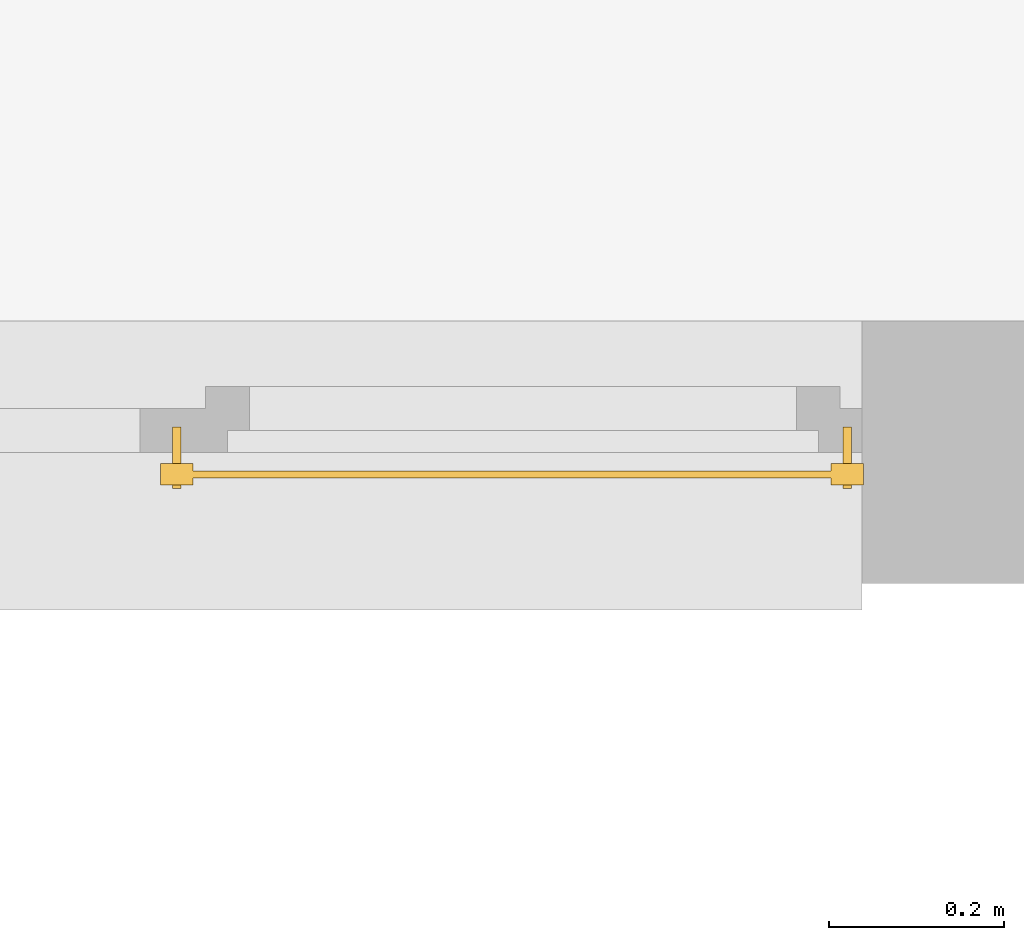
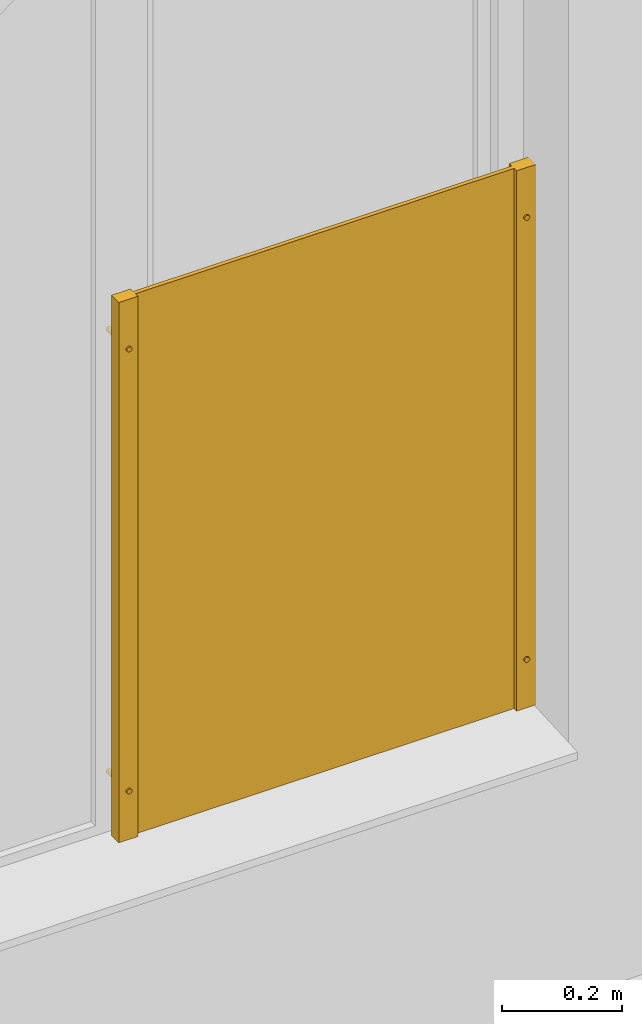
# One storey, part 4 of 8: 1 railing.
"""IFC2X3 building model written with IfcOpenShell, lengths in millimetres."""

from ifc_helpers import new_model, entity, si_unit, converted_unit, derived_unit, money_unit, direction, frame, origin_with_axes, place, context, subcontext, project, spatial, faceted_brep, material, material_list, type_object, element, save


model = new_model("IFC2X3")

# Units and contexts
model_context = context("Model", 3, precision=1e-05, world=origin_with_axes(), true_north=direction((0.0, 1.0)))
body_context = subcontext(model_context, "Body", "Model", "MODEL_VIEW")
ifc_project = project(units=[si_unit("LENGTHUNIT", "METRE", prefix="MILLI"), si_unit("AREAUNIT", "SQUARE_METRE"), si_unit("VOLUMEUNIT", "CUBIC_METRE"), converted_unit("PLANEANGLEUNIT", "DEGREE", entity("IfcPlaneAngleMeasure", 0.0174532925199), si_unit("PLANEANGLEUNIT", "RADIAN"), dimensions=[0, 0, 0, 0, 0, 0, 0]), si_unit("SOLIDANGLEUNIT", "STERADIAN"), money_unit("USD"), converted_unit("TIMEUNIT", "Year", entity("IfcTimeMeasure", 31556926.0), si_unit("TIMEUNIT", "SECOND"), dimensions=[0, 0, 1, 0, 0, 0, 0]), si_unit("MASSUNIT", "GRAM", prefix="KILO"), si_unit("THERMODYNAMICTEMPERATUREUNIT", "DEGREE_CELSIUS"), si_unit("LUMINOUSINTENSITYUNIT", "LUMEN"), si_unit("ENERGYUNIT", "JOULE", prefix="MEGA"), derived_unit("THERMALCONDUCTANCEUNIT", [(si_unit("POWERUNIT", "WATT"), 1), (si_unit("LENGTHUNIT", "METRE"), -1), (si_unit("THERMODYNAMICTEMPERATUREUNIT", "KELVIN"), -1)]), derived_unit("SPECIFICHEATCAPACITYUNIT", [(si_unit("ENERGYUNIT", "JOULE"), 1), (si_unit("MASSUNIT", "GRAM", prefix="KILO"), -1), (si_unit("THERMODYNAMICTEMPERATUREUNIT", "KELVIN"), -1)]), derived_unit("MASSDENSITYUNIT", [(si_unit("MASSUNIT", "GRAM", prefix="KILO"), 1), (si_unit("VOLUMEUNIT", "CUBIC_METRE"), -1)])], contexts=[model_context])

# Site, building, storey
site_placement = place(None, origin_with_axes())
site = spatial("IfcSite", under=ifc_project, at=site_placement, Name="Site", CompositionType="ELEMENT")
building_placement = place(site_placement, origin_with_axes())
building = spatial("IfcBuilding", under=site, at=building_placement, Name="Building", CompositionType="ELEMENT")
storey_placement = place(building_placement, origin_with_axes())
storey = spatial("IfcBuildingStorey", under=building, at=storey_placement, Name="Ground Floor", CompositionType="ELEMENT", Elevation=0.0)

# Railing
ifc_material_1 = material(Name="Steel - Structural")
ifc_material_2 = material(Name="Aluminium")
ifc_material_list = material_list([ifc_material_1, ifc_material_1, ifc_material_2, ifc_material_2, ifc_material_2, ifc_material_2, ifc_material_2])
railing_type = type_object("IfcRailingType", Name="Railing Type", PredefinedType="NOTDEFINED")
railing_placement = place(storey_placement, frame((-25961.9113682, 4280.41294117, 530.0), z_axis=(0.0, 0.0, 1.0), x_axis=(0.0, 1.0, 0.0)))
element("IfcRailing", 1, at=railing_placement, inside=storey, type_object=railing_type, material=ifc_material_list, Name="F-Line GOTLAND 1,1m", PredefinedType="NOTDEFINED", context=body_context, shape_type="Brep", body=[
    faceted_brep([(-12.5, 35.5, 0.0), (-37.5, 35.5, 0.0), (-37.5, 35.5, 1100.0), (-12.5, 35.5, 1100.0), (-12.5, -1.5, 0.0), (-37.5, -1.5, 0.0), (-37.5, -1.5, 1100.0), (-12.5, -1.5, 1100.0)], [[[0, 1, 2, 3]], [[0, 4, 5, 1]], [[1, 5, 6, 2]], [[3, 2, 6, 7]], [[4, 0, 3, 7]], [[5, 4, 7, 6]]]),
    faceted_brep([(-12.5, 801.5, 0.0), (-37.5, 801.5, 0.0), (-37.5, 801.5, 1100.0), (-12.5, 801.5, 1100.0), (-12.5, 764.5, 0.0), (-37.5, 764.5, 0.0), (-37.5, 764.5, 1100.0), (-12.5, 764.5, 1100.0)], [[[0, 1, 2, 3]], [[0, 4, 5, 1]], [[1, 5, 6, 2]], [[3, 2, 6, 7]], [[4, 0, 3, 7]], [[5, 4, 7, 6]]]),
    faceted_brep([(-29.0, 783.0, 0.0), (-29.0, 17.0, 0.0), (-29.0, 17.0, 1100.0), (-29.0, 783.0, 1100.0), (-21.0, 17.0, 0.0), (-21.0, 783.0, 0.0), (-21.0, 17.0, 1100.0), (-21.0, 783.0, 1100.0)], [[[0, 1, 2, 3]], [[4, 1, 0, 5]], [[6, 2, 1, 4]], [[3, 2, 6, 7]], [[0, 3, 7, 5]], [[6, 4, 5, 7]]]),
    faceted_brep([(-41.0, 21.9240387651, 100.868240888), (29.0, 21.9240387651, 100.868240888), (29.0, 21.9240387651, 99.1317591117), (-41.0, 21.9240387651, 99.1317591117), (-41.0, 21.6984631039, 101.710100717), (29.0, 21.6984631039, 101.710100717), (29.0, 21.3301270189, 102.5), (29.0, 20.8302222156, 103.213938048), (29.0, 20.2139380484, 103.830222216), (29.0, 19.5, 104.330127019), (29.0, 18.7101007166, 104.698463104), (29.0, 17.8682408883, 104.924038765), (29.0, 17.0, 105.0), (29.0, 16.1317591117, 104.924038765), (29.0, 15.2898992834, 104.698463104), (29.0, 14.5, 104.330127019), (29.0, 13.7860619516, 103.830222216), (29.0, 13.1697777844, 103.213938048), (29.0, 12.6698729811, 102.5), (29.0, 12.3015368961, 101.710100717), (29.0, 12.0759612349, 100.868240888), (29.0, 12.0, 100.0), (29.0, 12.0759612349, 99.1317591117), (29.0, 12.3015368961, 98.2898992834), (29.0, 12.6698729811, 97.5), (29.0, 13.1697777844, 96.7860619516), (29.0, 13.7860619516, 96.1697777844), (29.0, 14.5, 95.6698729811), (29.0, 15.2898992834, 95.3015368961), (29.0, 16.1317591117, 95.0759612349), (29.0, 17.0, 95.0), (29.0, 17.8682408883, 95.0759612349), (29.0, 18.7101007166, 95.3015368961), (29.0, 19.5, 95.6698729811), (29.0, 20.2139380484, 96.1697777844), (29.0, 20.8302222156, 96.7860619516), (29.0, 21.3301270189, 97.5), (29.0, 21.6984631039, 98.2898992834), (-41.0, 21.6984631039, 98.2898992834), (-41.0, 21.3301270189, 97.5), (-41.0, 20.8302222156, 96.7860619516), (-41.0, 20.2139380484, 96.1697777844), (-41.0, 19.5, 95.6698729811), (-41.0, 18.7101007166, 95.3015368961), (-41.0, 17.8682408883, 95.0759612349), (-41.0, 17.0, 95.0), (-41.0, 16.1317591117, 95.0759612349), (-41.0, 15.2898992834, 95.3015368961), (-41.0, 14.5, 95.6698729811), (-41.0, 13.7860619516, 96.1697777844), (-41.0, 13.1697777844, 96.7860619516), (-41.0, 12.6698729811, 97.5), (-41.0, 12.3015368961, 98.2898992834), (-41.0, 12.0759612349, 99.1317591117), (-41.0, 12.0, 100.0), (-41.0, 12.0759612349, 100.868240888), (-41.0, 12.3015368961, 101.710100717), (-41.0, 12.6698729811, 102.5), (-41.0, 13.1697777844, 103.213938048), (-41.0, 13.7860619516, 103.830222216), (-41.0, 14.5, 104.330127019), (-41.0, 15.2898992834, 104.698463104), (-41.0, 16.1317591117, 104.924038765), (-41.0, 17.0, 105.0), (-41.0, 17.8682408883, 104.924038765), (-41.0, 18.7101007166, 104.698463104), (-41.0, 19.5, 104.330127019), (-41.0, 20.2139380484, 103.830222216), (-41.0, 20.8302222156, 103.213938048), (-41.0, 21.3301270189, 102.5)], [[[0, 1, 2, 3]], [[4, 5, 1, 0]], [[1, 5, 6, 7, 8, 9, 10, 11, 12, 13, 14, 15, 16, 17, 18, 19, 20, 21, 22, 23, 24, 25, 26, 27, 28, 29, 30, 31, 32, 33, 34, 35, 36, 37, 2]], [[3, 2, 37, 38]], [[0, 3, 38, 39, 40, 41, 42, 43, 44, 45, 46, 47, 48, 49, 50, 51, 52, 53, 54, 55, 56, 57, 58, 59, 60, 61, 62, 63, 64, 65, 66, 67, 68, 69, 4]], [[69, 6, 5, 4]], [[68, 7, 6, 69]], [[67, 8, 7, 68]], [[66, 9, 8, 67]], [[65, 10, 9, 66]], [[64, 11, 10, 65]], [[63, 12, 11, 64]], [[62, 13, 12, 63]], [[61, 14, 13, 62]], [[60, 15, 14, 61]], [[59, 16, 15, 60]], [[58, 17, 16, 59]], [[57, 18, 17, 58]], [[56, 19, 18, 57]], [[55, 20, 19, 56]], [[54, 21, 20, 55]], [[53, 22, 21, 54]], [[52, 23, 22, 53]], [[51, 24, 23, 52]], [[50, 25, 24, 51]], [[49, 26, 25, 50]], [[48, 27, 26, 49]], [[47, 28, 27, 48]], [[46, 29, 28, 47]], [[45, 30, 29, 46]], [[44, 31, 30, 45]], [[43, 32, 31, 44]], [[42, 33, 32, 43]], [[41, 34, 33, 42]], [[40, 35, 34, 41]], [[39, 36, 35, 40]], [[38, 37, 36, 39]]]),
    faceted_brep([(-41.0, 21.9240387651, 1000.86824089), (29.0, 21.9240387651, 1000.86824089), (29.0, 21.9240387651, 999.131759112), (-41.0, 21.9240387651, 999.131759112), (-41.0, 21.6984631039, 1001.71010072), (29.0, 21.6984631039, 1001.71010072), (29.0, 21.3301270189, 1002.5), (29.0, 20.8302222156, 1003.21393805), (29.0, 20.2139380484, 1003.83022222), (29.0, 19.5, 1004.33012702), (29.0, 18.7101007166, 1004.6984631), (29.0, 17.8682408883, 1004.92403877), (29.0, 17.0, 1005.0), (29.0, 16.1317591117, 1004.92403877), (29.0, 15.2898992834, 1004.6984631), (29.0, 14.5, 1004.33012702), (29.0, 13.7860619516, 1003.83022222), (29.0, 13.1697777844, 1003.21393805), (29.0, 12.6698729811, 1002.5), (29.0, 12.3015368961, 1001.71010072), (29.0, 12.0759612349, 1000.86824089), (29.0, 12.0, 1000.0), (29.0, 12.0759612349, 999.131759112), (29.0, 12.3015368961, 998.289899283), (29.0, 12.6698729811, 997.5), (29.0, 13.1697777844, 996.786061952), (29.0, 13.7860619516, 996.169777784), (29.0, 14.5, 995.669872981), (29.0, 15.2898992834, 995.301536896), (29.0, 16.1317591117, 995.075961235), (29.0, 17.0, 995.0), (29.0, 17.8682408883, 995.075961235), (29.0, 18.7101007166, 995.301536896), (29.0, 19.5, 995.669872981), (29.0, 20.2139380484, 996.169777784), (29.0, 20.8302222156, 996.786061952), (29.0, 21.3301270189, 997.5), (29.0, 21.6984631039, 998.289899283), (-41.0, 21.6984631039, 998.289899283), (-41.0, 21.3301270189, 997.5), (-41.0, 20.8302222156, 996.786061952), (-41.0, 20.2139380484, 996.169777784), (-41.0, 19.5, 995.669872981), (-41.0, 18.7101007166, 995.301536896), (-41.0, 17.8682408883, 995.075961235), (-41.0, 17.0, 995.0), (-41.0, 16.1317591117, 995.075961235), (-41.0, 15.2898992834, 995.301536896), (-41.0, 14.5, 995.669872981), (-41.0, 13.7860619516, 996.169777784), (-41.0, 13.1697777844, 996.786061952), (-41.0, 12.6698729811, 997.5), (-41.0, 12.3015368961, 998.289899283), (-41.0, 12.0759612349, 999.131759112), (-41.0, 12.0, 1000.0), (-41.0, 12.0759612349, 1000.86824089), (-41.0, 12.3015368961, 1001.71010072), (-41.0, 12.6698729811, 1002.5), (-41.0, 13.1697777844, 1003.21393805), (-41.0, 13.7860619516, 1003.83022222), (-41.0, 14.5, 1004.33012702), (-41.0, 15.2898992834, 1004.6984631), (-41.0, 16.1317591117, 1004.92403877), (-41.0, 17.0, 1005.0), (-41.0, 17.8682408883, 1004.92403877), (-41.0, 18.7101007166, 1004.6984631), (-41.0, 19.5, 1004.33012702), (-41.0, 20.2139380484, 1003.83022222), (-41.0, 20.8302222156, 1003.21393805), (-41.0, 21.3301270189, 1002.5)], [[[0, 1, 2, 3]], [[4, 5, 1, 0]], [[1, 5, 6, 7, 8, 9, 10, 11, 12, 13, 14, 15, 16, 17, 18, 19, 20, 21, 22, 23, 24, 25, 26, 27, 28, 29, 30, 31, 32, 33, 34, 35, 36, 37, 2]], [[3, 2, 37, 38]], [[0, 3, 38, 39, 40, 41, 42, 43, 44, 45, 46, 47, 48, 49, 50, 51, 52, 53, 54, 55, 56, 57, 58, 59, 60, 61, 62, 63, 64, 65, 66, 67, 68, 69, 4]], [[69, 6, 5, 4]], [[68, 7, 6, 69]], [[67, 8, 7, 68]], [[66, 9, 8, 67]], [[65, 10, 9, 66]], [[64, 11, 10, 65]], [[63, 12, 11, 64]], [[62, 13, 12, 63]], [[61, 14, 13, 62]], [[60, 15, 14, 61]], [[59, 16, 15, 60]], [[58, 17, 16, 59]], [[57, 18, 17, 58]], [[56, 19, 18, 57]], [[55, 20, 19, 56]], [[54, 21, 20, 55]], [[53, 22, 21, 54]], [[52, 23, 22, 53]], [[51, 24, 23, 52]], [[50, 25, 24, 51]], [[49, 26, 25, 50]], [[48, 27, 26, 49]], [[47, 28, 27, 48]], [[46, 29, 28, 47]], [[45, 30, 29, 46]], [[44, 31, 30, 45]], [[43, 32, 31, 44]], [[42, 33, 32, 43]], [[41, 34, 33, 42]], [[40, 35, 34, 41]], [[39, 36, 35, 40]], [[38, 37, 36, 39]]]),
    faceted_brep([(-41.0, 787.924038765, 100.868240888), (29.0, 787.924038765, 100.868240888), (29.0, 787.924038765, 99.1317591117), (-41.0, 787.924038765, 99.1317591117), (-41.0, 787.698463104, 101.710100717), (29.0, 787.698463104, 101.710100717), (29.0, 787.330127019, 102.5), (29.0, 786.830222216, 103.213938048), (29.0, 786.213938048, 103.830222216), (29.0, 785.5, 104.330127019), (29.0, 784.710100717, 104.698463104), (29.0, 783.868240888, 104.924038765), (29.0, 783.0, 105.0), (29.0, 782.131759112, 104.924038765), (29.0, 781.289899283, 104.698463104), (29.0, 780.5, 104.330127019), (29.0, 779.786061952, 103.830222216), (29.0, 779.169777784, 103.213938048), (29.0, 778.669872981, 102.5), (29.0, 778.301536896, 101.710100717), (29.0, 778.075961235, 100.868240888), (29.0, 778.0, 100.0), (29.0, 778.075961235, 99.1317591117), (29.0, 778.301536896, 98.2898992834), (29.0, 778.669872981, 97.5), (29.0, 779.169777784, 96.7860619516), (29.0, 779.786061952, 96.1697777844), (29.0, 780.5, 95.6698729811), (29.0, 781.289899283, 95.3015368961), (29.0, 782.131759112, 95.0759612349), (29.0, 783.0, 95.0), (29.0, 783.868240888, 95.0759612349), (29.0, 784.710100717, 95.3015368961), (29.0, 785.5, 95.6698729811), (29.0, 786.213938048, 96.1697777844), (29.0, 786.830222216, 96.7860619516), (29.0, 787.330127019, 97.5), (29.0, 787.698463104, 98.2898992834), (-41.0, 787.698463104, 98.2898992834), (-41.0, 787.330127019, 97.5), (-41.0, 786.830222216, 96.7860619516), (-41.0, 786.213938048, 96.1697777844), (-41.0, 785.5, 95.6698729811), (-41.0, 784.710100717, 95.3015368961), (-41.0, 783.868240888, 95.0759612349), (-41.0, 783.0, 95.0), (-41.0, 782.131759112, 95.0759612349), (-41.0, 781.289899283, 95.3015368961), (-41.0, 780.5, 95.6698729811), (-41.0, 779.786061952, 96.1697777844), (-41.0, 779.169777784, 96.7860619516), (-41.0, 778.669872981, 97.5), (-41.0, 778.301536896, 98.2898992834), (-41.0, 778.075961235, 99.1317591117), (-41.0, 778.0, 100.0), (-41.0, 778.075961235, 100.868240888), (-41.0, 778.301536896, 101.710100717), (-41.0, 778.669872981, 102.5), (-41.0, 779.169777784, 103.213938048), (-41.0, 779.786061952, 103.830222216), (-41.0, 780.5, 104.330127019), (-41.0, 781.289899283, 104.698463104), (-41.0, 782.131759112, 104.924038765), (-41.0, 783.0, 105.0), (-41.0, 783.868240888, 104.924038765), (-41.0, 784.710100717, 104.698463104), (-41.0, 785.5, 104.330127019), (-41.0, 786.213938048, 103.830222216), (-41.0, 786.830222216, 103.213938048), (-41.0, 787.330127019, 102.5)], [[[0, 1, 2, 3]], [[4, 5, 1, 0]], [[1, 5, 6, 7, 8, 9, 10, 11, 12, 13, 14, 15, 16, 17, 18, 19, 20, 21, 22, 23, 24, 25, 26, 27, 28, 29, 30, 31, 32, 33, 34, 35, 36, 37, 2]], [[3, 2, 37, 38]], [[0, 3, 38, 39, 40, 41, 42, 43, 44, 45, 46, 47, 48, 49, 50, 51, 52, 53, 54, 55, 56, 57, 58, 59, 60, 61, 62, 63, 64, 65, 66, 67, 68, 69, 4]], [[69, 6, 5, 4]], [[68, 7, 6, 69]], [[67, 8, 7, 68]], [[66, 9, 8, 67]], [[65, 10, 9, 66]], [[64, 11, 10, 65]], [[63, 12, 11, 64]], [[62, 13, 12, 63]], [[61, 14, 13, 62]], [[60, 15, 14, 61]], [[59, 16, 15, 60]], [[58, 17, 16, 59]], [[57, 18, 17, 58]], [[56, 19, 18, 57]], [[55, 20, 19, 56]], [[54, 21, 20, 55]], [[53, 22, 21, 54]], [[52, 23, 22, 53]], [[51, 24, 23, 52]], [[50, 25, 24, 51]], [[49, 26, 25, 50]], [[48, 27, 26, 49]], [[47, 28, 27, 48]], [[46, 29, 28, 47]], [[45, 30, 29, 46]], [[44, 31, 30, 45]], [[43, 32, 31, 44]], [[42, 33, 32, 43]], [[41, 34, 33, 42]], [[40, 35, 34, 41]], [[39, 36, 35, 40]], [[38, 37, 36, 39]]]),
    faceted_brep([(-41.0, 787.924038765, 1000.86824089), (29.0, 787.924038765, 1000.86824089), (29.0, 787.924038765, 999.131759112), (-41.0, 787.924038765, 999.131759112), (-41.0, 787.698463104, 1001.71010072), (29.0, 787.698463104, 1001.71010072), (29.0, 787.330127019, 1002.5), (29.0, 786.830222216, 1003.21393805), (29.0, 786.213938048, 1003.83022222), (29.0, 785.5, 1004.33012702), (29.0, 784.710100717, 1004.6984631), (29.0, 783.868240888, 1004.92403877), (29.0, 783.0, 1005.0), (29.0, 782.131759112, 1004.92403877), (29.0, 781.289899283, 1004.6984631), (29.0, 780.5, 1004.33012702), (29.0, 779.786061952, 1003.83022222), (29.0, 779.169777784, 1003.21393805), (29.0, 778.669872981, 1002.5), (29.0, 778.301536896, 1001.71010072), (29.0, 778.075961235, 1000.86824089), (29.0, 778.0, 1000.0), (29.0, 778.075961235, 999.131759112), (29.0, 778.301536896, 998.289899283), (29.0, 778.669872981, 997.5), (29.0, 779.169777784, 996.786061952), (29.0, 779.786061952, 996.169777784), (29.0, 780.5, 995.669872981), (29.0, 781.289899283, 995.301536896), (29.0, 782.131759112, 995.075961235), (29.0, 783.0, 995.0), (29.0, 783.868240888, 995.075961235), (29.0, 784.710100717, 995.301536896), (29.0, 785.5, 995.669872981), (29.0, 786.213938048, 996.169777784), (29.0, 786.830222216, 996.786061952), (29.0, 787.330127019, 997.5), (29.0, 787.698463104, 998.289899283), (-41.0, 787.698463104, 998.289899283), (-41.0, 787.330127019, 997.5), (-41.0, 786.830222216, 996.786061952), (-41.0, 786.213938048, 996.169777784), (-41.0, 785.5, 995.669872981), (-41.0, 784.710100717, 995.301536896), (-41.0, 783.868240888, 995.075961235), (-41.0, 783.0, 995.0), (-41.0, 782.131759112, 995.075961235), (-41.0, 781.289899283, 995.301536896), (-41.0, 780.5, 995.669872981), (-41.0, 779.786061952, 996.169777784), (-41.0, 779.169777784, 996.786061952), (-41.0, 778.669872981, 997.5), (-41.0, 778.301536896, 998.289899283), (-41.0, 778.075961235, 999.131759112), (-41.0, 778.0, 1000.0), (-41.0, 778.075961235, 1000.86824089), (-41.0, 778.301536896, 1001.71010072), (-41.0, 778.669872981, 1002.5), (-41.0, 779.169777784, 1003.21393805), (-41.0, 779.786061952, 1003.83022222), (-41.0, 780.5, 1004.33012702), (-41.0, 781.289899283, 1004.6984631), (-41.0, 782.131759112, 1004.92403877), (-41.0, 783.0, 1005.0), (-41.0, 783.868240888, 1004.92403877), (-41.0, 784.710100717, 1004.6984631), (-41.0, 785.5, 1004.33012702), (-41.0, 786.213938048, 1003.83022222), (-41.0, 786.830222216, 1003.21393805), (-41.0, 787.330127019, 1002.5)], [[[0, 1, 2, 3]], [[4, 5, 1, 0]], [[1, 5, 6, 7, 8, 9, 10, 11, 12, 13, 14, 15, 16, 17, 18, 19, 20, 21, 22, 23, 24, 25, 26, 27, 28, 29, 30, 31, 32, 33, 34, 35, 36, 37, 2]], [[3, 2, 37, 38]], [[0, 3, 38, 39, 40, 41, 42, 43, 44, 45, 46, 47, 48, 49, 50, 51, 52, 53, 54, 55, 56, 57, 58, 59, 60, 61, 62, 63, 64, 65, 66, 67, 68, 69, 4]], [[69, 6, 5, 4]], [[68, 7, 6, 69]], [[67, 8, 7, 68]], [[66, 9, 8, 67]], [[65, 10, 9, 66]], [[64, 11, 10, 65]], [[63, 12, 11, 64]], [[62, 13, 12, 63]], [[61, 14, 13, 62]], [[60, 15, 14, 61]], [[59, 16, 15, 60]], [[58, 17, 16, 59]], [[57, 18, 17, 58]], [[56, 19, 18, 57]], [[55, 20, 19, 56]], [[54, 21, 20, 55]], [[53, 22, 21, 54]], [[52, 23, 22, 53]], [[51, 24, 23, 52]], [[50, 25, 24, 51]], [[49, 26, 25, 50]], [[48, 27, 26, 49]], [[47, 28, 27, 48]], [[46, 29, 28, 47]], [[45, 30, 29, 46]], [[44, 31, 30, 45]], [[43, 32, 31, 44]], [[42, 33, 32, 43]], [[41, 34, 33, 42]], [[40, 35, 34, 41]], [[39, 36, 35, 40]], [[38, 37, 36, 39]]]),
])

save(model, "model.ifc")
